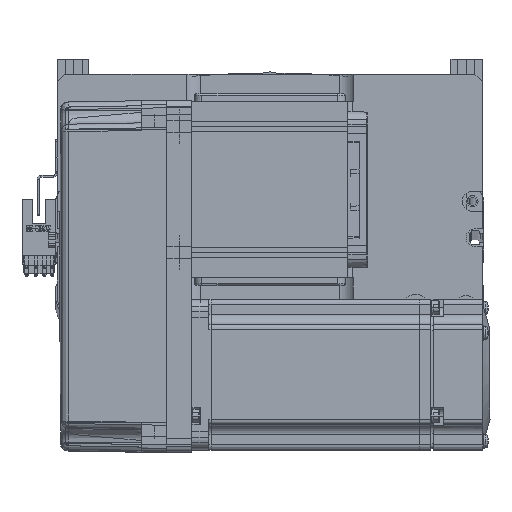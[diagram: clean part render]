
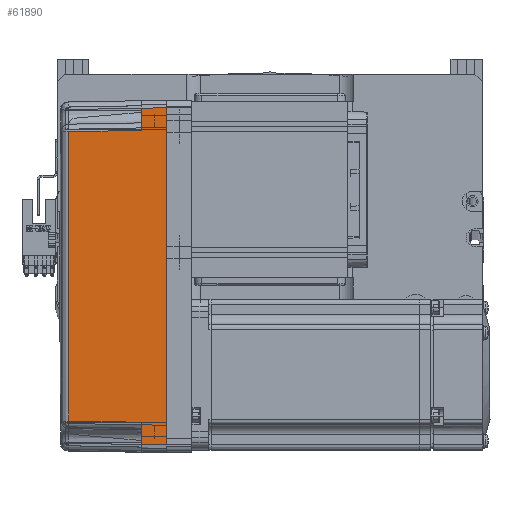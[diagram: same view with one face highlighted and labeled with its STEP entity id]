
A CAD part, top view. The second image highlights one B-rep face of the part: STEP entity #61890.
In plain terms, the highlighted planar face has unit normal (-0.018, 0, 1) as drawn and (0, -1, 0.017) by its records, which use the part's own axes.
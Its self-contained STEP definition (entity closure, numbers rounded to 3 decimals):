
#331 = DIRECTION ( 'NONE',  ( 0., -1., 0.017 ) ) ;
#2777 = VECTOR ( 'NONE', #8463, 1000. ) ;
#2861 = DIRECTION ( 'NONE',  ( -1., 0., 0. ) ) ;
#2913 = AXIS2_PLACEMENT_3D ( 'NONE', #57237, #331, #42207 ) ;
#4105 = VERTEX_POINT ( 'NONE', #33930 ) ;
#4292 = CARTESIAN_POINT ( 'NONE',  ( -19.165, -35.316, 39.181 ) ) ;
#5955 = VERTEX_POINT ( 'NONE', #65563 ) ;
#5964 = EDGE_CURVE ( 'NONE', #41379, #44067, #65747, .T. ) ;
#7257 = CARTESIAN_POINT ( 'NONE',  ( 70., -35.825, 10. ) ) ;
#8181 = EDGE_CURVE ( 'NONE', #5955, #41379, #41198, .T. ) ;
#8234 = CARTESIAN_POINT ( 'NONE',  ( -57.495, -35.32, 38.985 ) ) ;
#8463 = DIRECTION ( 'NONE',  ( -0.017, -0.017, -1. ) ) ;
#9388 = ORIENTED_EDGE ( 'NONE', *, *, #59332, .T. ) ;
#9795 = LINE ( 'NONE', #10507, #64583 ) ;
#10507 = CARTESIAN_POINT ( 'NONE',  ( 0., -36., 0. ) ) ;
#10588 = DIRECTION ( 'NONE',  ( -0.017, 0.017, 1. ) ) ;
#13549 = CARTESIAN_POINT ( 'NONE',  ( -58., -35.825, 10. ) ) ;
#14607 = CARTESIAN_POINT ( 'NONE',  ( 19.165, -35.316, 39.181 ) ) ;
#14833 = CARTESIAN_POINT ( 'NONE',  ( 57.495, -35.32, 38.985 ) ) ;
#15029 = ORIENTED_EDGE ( 'NONE', *, *, #58853, .T. ) ;
#16737 = EDGE_LOOP ( 'NONE', ( #9388, #15029, #46995, #47803, #52845, #50313, #32296, #47885 ) ) ;
#16965 = LINE ( 'NONE', #22737, #47210 ) ;
#17272 = LINE ( 'NONE', #67716, #28676 ) ;
#18161 = CARTESIAN_POINT ( 'NONE',  ( -67., -36., 0. ) ) ;
#18748 = CARTESIAN_POINT ( 'NONE',  ( 66.826, -35.825, 10. ) ) ;
#19882 = CARTESIAN_POINT ( 'NONE',  ( -57.495, -35.32, 38.985 ) ) ;
#20990 = VECTOR ( 'NONE', #36927, 1000. ) ;
#21643 = CARTESIAN_POINT ( 'NONE',  ( 70., -35.825, 10. ) ) ;
#22466 = VECTOR ( 'NONE', #39613, 1000. ) ;
#22737 = CARTESIAN_POINT ( 'NONE',  ( 67., -36., 0. ) ) ;
#26796 = PLANE ( 'NONE',  #2913 ) ;
#28676 = VECTOR ( 'NONE', #10588, 1000. ) ;
#32296 = ORIENTED_EDGE ( 'NONE', *, *, #37441, .F. ) ;
#33658 = EDGE_CURVE ( 'NONE', #4105, #5955, #17272, .T. ) ;
#33930 = CARTESIAN_POINT ( 'NONE',  ( 58., -35.825, 10. ) ) ;
#34289 = EDGE_CURVE ( 'NONE', #65052, #48393, #9795, .T. ) ;
#34328 = CARTESIAN_POINT ( 'NONE',  ( -66.959, -35.958, 2.39 ) ) ;
#34821 = LINE ( 'NONE', #21643, #20990 ) ;
#36686 = VECTOR ( 'NONE', #2861, 1000. ) ;
#36927 = DIRECTION ( 'NONE',  ( -1., 0., 0. ) ) ;
#37007 = DIRECTION ( 'NONE',  ( -1., 0., 0. ) ) ;
#37441 = EDGE_CURVE ( 'NONE', #48393, #65507, #62515, .T. ) ;
#39172 = DIRECTION ( 'NONE',  ( -0.017, 0.017, 1. ) ) ;
#39613 = DIRECTION ( 'NONE',  ( 0.017, 0.017, 1. ) ) ;
#41198 = B_SPLINE_CURVE_WITH_KNOTS ( 'NONE', 3,
 ( #14833, #14607, #4292, #19882 ),
 .UNSPECIFIED., .F., .F.,
 ( 4, 4 ),
 ( 0., 1. ),
 .UNSPECIFIED. ) ;
#41379 = VERTEX_POINT ( 'NONE', #49919 ) ;
#42207 = DIRECTION ( 'NONE',  ( 0., -0.017, -1. ) ) ;
#44067 = VERTEX_POINT ( 'NONE', #13549 ) ;
#46995 = ORIENTED_EDGE ( 'NONE', *, *, #33658, .T. ) ;
#47210 = VECTOR ( 'NONE', #39172, 1000. ) ;
#47803 = ORIENTED_EDGE ( 'NONE', *, *, #8181, .T. ) ;
#47885 = ORIENTED_EDGE ( 'NONE', *, *, #34289, .F. ) ;
#48393 = VERTEX_POINT ( 'NONE', #18161 ) ;
#49351 = CARTESIAN_POINT ( 'NONE',  ( 67., -36., 0. ) ) ;
#49919 = CARTESIAN_POINT ( 'NONE',  ( -57.495, -35.32, 38.985 ) ) ;
#50052 = VERTEX_POINT ( 'NONE', #18748 ) ;
#50313 = ORIENTED_EDGE ( 'NONE', *, *, #60240, .T. ) ;
#52845 = ORIENTED_EDGE ( 'NONE', *, *, #5964, .T. ) ;
#53028 = LINE ( 'NONE', #7257, #36686 ) ;
#57237 = CARTESIAN_POINT ( 'NONE',  ( 70., -36., 0. ) ) ;
#58853 = EDGE_CURVE ( 'NONE', #50052, #4105, #53028, .T. ) ;
#59332 = EDGE_CURVE ( 'NONE', #65052, #50052, #16965, .T. ) ;
#60240 = EDGE_CURVE ( 'NONE', #44067, #65507, #34821, .T. ) ;
#61890 = ADVANCED_FACE ( 'NONE', ( #67004 ), #26796, .T. ) ;
#62515 = LINE ( 'NONE', #34328, #22466 ) ;
#64327 = CARTESIAN_POINT ( 'NONE',  ( -66.826, -35.825, 10. ) ) ;
#64583 = VECTOR ( 'NONE', #37007, 1000. ) ;
#65052 = VERTEX_POINT ( 'NONE', #49351 ) ;
#65507 = VERTEX_POINT ( 'NONE', #64327 ) ;
#65563 = CARTESIAN_POINT ( 'NONE',  ( 57.495, -35.32, 38.985 ) ) ;
#65747 = LINE ( 'NONE', #8234, #2777 ) ;
#67004 = FACE_OUTER_BOUND ( 'NONE', #16737, .T. ) ;
#67716 = CARTESIAN_POINT ( 'NONE',  ( 58., -35.825, 10. ) ) ;
